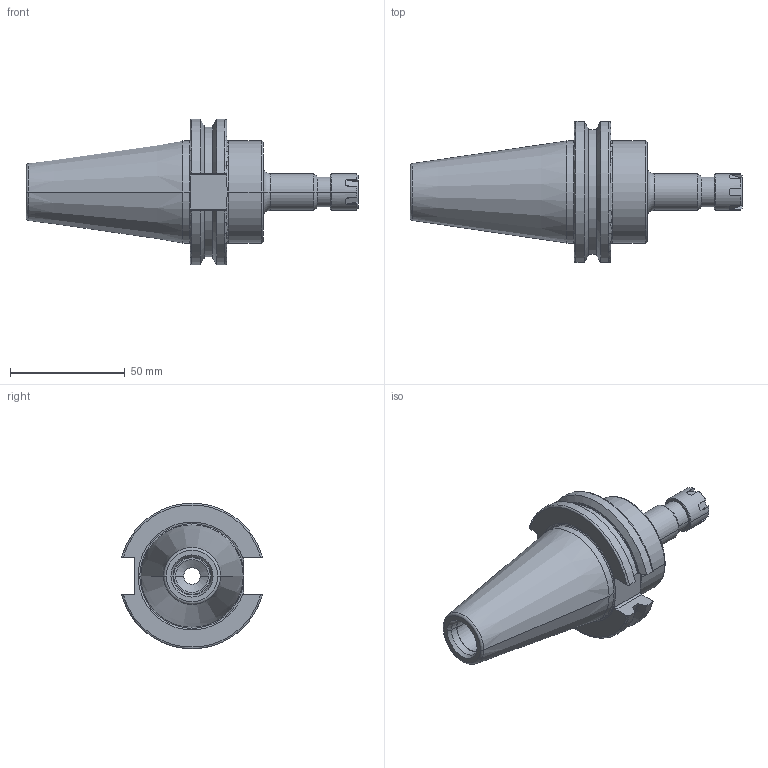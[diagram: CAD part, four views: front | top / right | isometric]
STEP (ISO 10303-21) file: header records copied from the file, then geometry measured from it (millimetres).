
FILE_DESCRIPTION (( 'STEP AP214' ), '1' );
FILE_NAME ('C4C4-0011.STEP', '2016-04-21T21:34:04', ( '' ), ( '' ), 'SwSTEP 2.0', 'SolidWorks 2016', '' );
FILE_SCHEMA (( 'AUTOMOTIVE_DESIGN' ));
Length unit declared in the file: inch
Products named in the file (1): C4C4-0011
Bounding box: 144.45 x 61.35 x 63.26 mm (x, y, z)
Volume: 126002.4 mm3; surface area: 26661.9 mm2
Topology: 1 solids, 1 shells, 553 faces, 1467 edges, 966 vertices
Faces by surface type: plane 312, bspline 135, cylinder 44, cone 44, torus 18
Entity records: 23713 total; most frequent: CARTESIAN_POINT 10866, ORIENTED_EDGE 2930, DIRECTION 2125, EDGE_CURVE 1465, VERTEX_POINT 966, VECTOR 951, LINE 951, EDGE_LOOP 607
